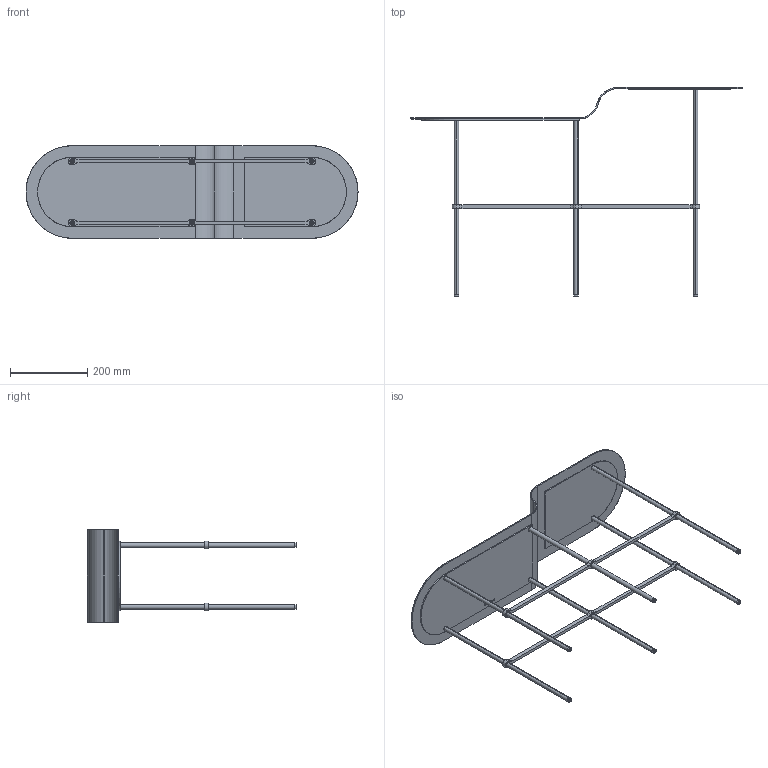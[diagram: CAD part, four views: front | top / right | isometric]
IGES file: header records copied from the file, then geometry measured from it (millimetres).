
Start section: SolidWorks IGES file using analytic representation for surfaces
Global section: file name: \\utenti\Dati Utenti\Tecnico\DC\2D - 3D per sito\3D\DeCastelli-3D-Scribble Accent.igs; native system: SolidWorks 2022; preprocessor: SolidWorks 2022; author: Simonep; date: 240729.120735; units: millimetre
Bounding box: 860 x 541.76 x 240 mm (x, y, z)
Surface area: 689485.8 mm2 (no closed solid volume)
Topology: 0 solids, 0 shells, 163 faces, 2204 edges, 2192 vertices
Faces by surface type: bspline 96, revolution 67
